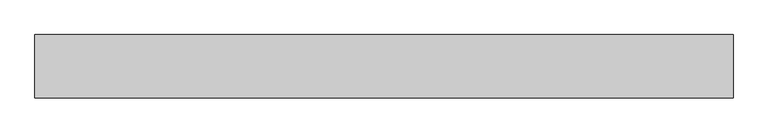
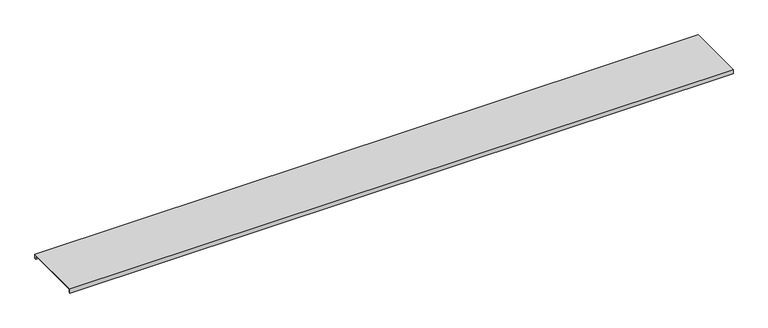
"""IFC4 building model written with IfcOpenShell, lengths in millimetres: cable carrier fitting geometry, ССT_Hyperline_FBTR-CVR-2000 Крышка для оптического лотка : Крышка для оптического лотка."""

from ifc_helpers import new_model, si_unit, frame, origin, place, context, project, spatial, polyline, outline, extrude, source, transform, mapped, element, save


def cable_carrier_fitting_c87bc051(model_context):
    return source(origin(), model_context, "Body", "SweptSolid", [
        extrude(outline(polyline([(60.0, 50.0), (-60.0, 50.0), (-60.0, 43.0), (-62.54, 43.0), (-62.54, 52.54), (62.54, 52.54), (62.54, 43.0), (60.0, 43.0), (60.0, 50.0)])), frame((-1193.4433999, 0.0, 0.0), z_axis=(1.0, 0.0, 0.0), x_axis=(0.0, 1.0, 0.0)), (0.0, 0.0, 1.0), 1373.4433999),
    ])


if __name__ == "__main__":
    model = new_model("IFC4")
    model_context = context("Model", 3, world=origin())
    ifc_project = project(units=[si_unit("LENGTHUNIT", "METRE", prefix="MILLI")], contexts=[model_context])
    site = spatial("IfcSite", under=ifc_project)
    building = spatial("IfcBuilding", under=site)
    placement = place(None, origin())
    cable_carrier_fitting_shape = cable_carrier_fitting_c87bc051(model_context)
    element("IfcCableCarrierFitting", 1, ObjectType="ССT_Hyperline_FBTR-CVR-2000 Крышка для оптического лотка : Крышка для оптического лотка", at=placement, inside=building, context=model_context, shape_type="MappedRepresentation", body=[
        mapped(cable_carrier_fitting_shape, transform((0.0, 0.0, 0.0), x_axis=(1.0, 0.0, 0.0), y_axis=(0.0, 1.0, 0.0), z_axis=(0.0, 0.0, 1.0))),
    ])
    save(model, "model.ifc")
